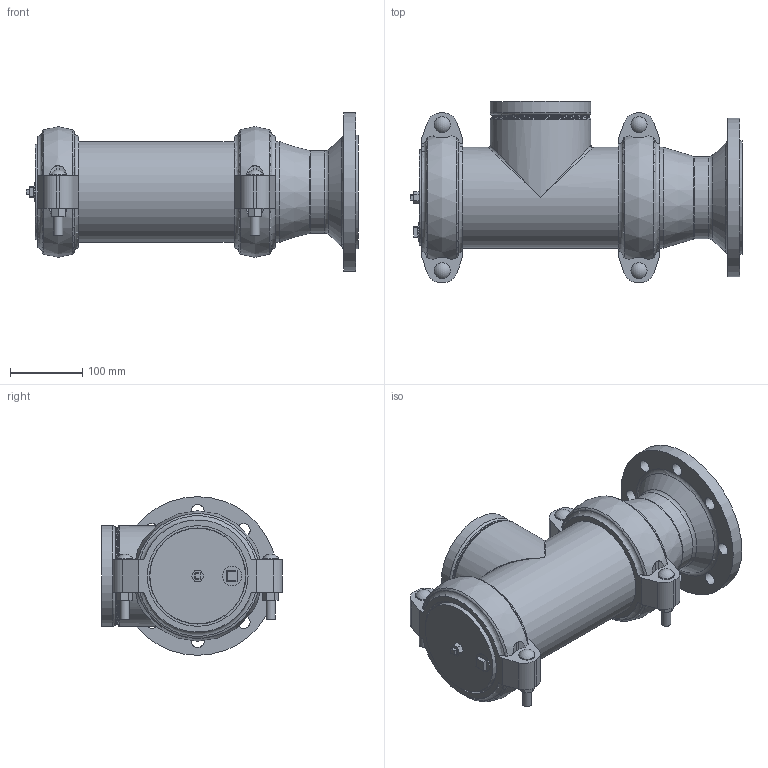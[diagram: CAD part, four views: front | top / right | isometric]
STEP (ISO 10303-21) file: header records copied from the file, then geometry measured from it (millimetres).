
FILE_DESCRIPTION(/* description */ ('VIC STRENGTHIN SUCTION DIFFUSER SERIES E431','CAx-IF Rec.Pracs.---Representation and Presentation of Product Manufacturing Information (PMI)---4.0---2014-10-13'),/* implementation_level */ '2;1');
FILE_NAME(/* name */ 'C:\Users\Vjadhav\AppData\Roaming\Autodesk\ApplicationPlugins\Back Up\Victaulic_SS-StrengThin 100_Suction Diffuser_PN16_Series E431 (ST1xFLG)\Victaulic_SS-StrengThin 100_Suction Diffuser_PN16_05.0 (139.7)x04.0 (125x100).stp',/* time_stamp */ '2020-07-07T13:02:59+06:00',/* author */ ('VJadhav'),/* organization */ ('Victaulic'),/* preprocessor_version */ 'ST-DEVELOPER v17.2',/* originating_system */ 'Autodesk Inventor 2019',/* authorisation */ '');
FILE_SCHEMA (('AP242_MANAGED_MODEL_BASED_3D_ENGINEERING_MIM_LF { 1 0 10303 442 1 1 4 }'));
Length unit declared in the file: inch
Products named in the file (5): E431-05.0 (139.7)x04.0; E492-05.0 (139.7); E431-05.0 (139.7); E497-05.0 (139.7); E431-05.0 (139.7)_1
Assembly tree (5 placements, depth 2):
  E431-05.0 (139.7)x04.0
    E492-05.0 (139.7)
    E497-05.0 (139.7)  x2
    E431-05.0 (139.7)
    E431-05.0 (139.7)_1
Bounding box: 460.5 x 250.95 x 219.96 mm (x, y, z)
Volume: 2777348 mm3; surface area: 687613.5 mm2
Topology: 5 solids, 5 shells, 312 faces, 908 edges, 611 vertices
Faces by surface type: plane 115, cylinder 108, torus 59, cone 12, sphere 12, bspline 6
Full cylindrical faces by diameter (mm): 12.7 x8, 18.034 x8, 22.225 x4, 26.67 x1, 106.172 x1, 107.188 x1, 113.03 x1, 114.3 x1, 127 x2, 130.505 x3, 132.893 x1, 134.518 x3, 135.687 x5, 139.7 x11, 157.48 x1, 219.964 x1
Entity records: 9119 total; most frequent: CARTESIAN_POINT 2078, DIRECTION 1531, ORIENTED_EDGE 1370, EDGE_CURVE 685, AXIS2_PLACEMENT_3D 652, VERTEX_POINT 465, CIRCLE 402, EDGE_LOOP 270
